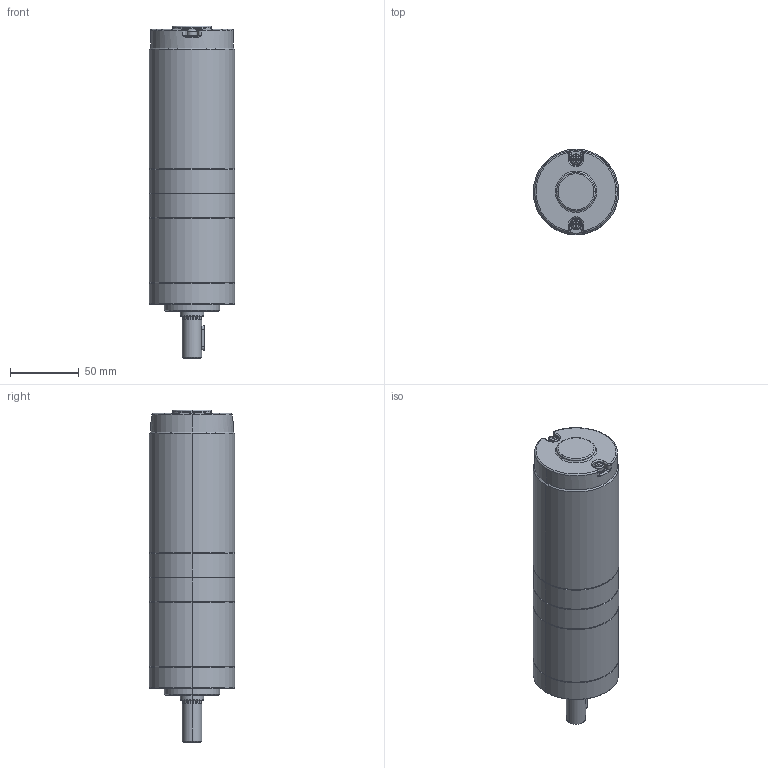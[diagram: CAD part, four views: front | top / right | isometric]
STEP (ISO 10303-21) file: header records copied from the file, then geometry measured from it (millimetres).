
FILE_DESCRIPTION (( 'STEP AP203' ), '1' );
FILE_NAME ('62ZPN有刷三级减速60W.STEP', '2021-07-17T08:18:38', ( '' ), ( '' ), 'SwSTEP 2.0', 'SolidWorks 2021', '' );
FILE_SCHEMA (( 'CONFIG_CONTROL_DESIGN' ));
Length unit declared in the file: millimetre
Products named in the file (1): 62ZPN有刷三级减速60W
Bounding box: 62 x 62 x 240.8 mm (x, y, z)
Volume: 609500.8 mm3; surface area: 49993.5 mm2
Topology: 1 solids, 1 shells, 277 faces, 645 edges, 385 vertices
Faces by surface type: plane 98, cylinder 97, cone 48, torus 27, bspline 7
Entity records: 8342 total; most frequent: CARTESIAN_POINT 1897, DIRECTION 1416, ORIENTED_EDGE 1266, EDGE_CURVE 633, AXIS2_PLACEMENT_3D 540, VERTEX_POINT 385, LINE 336, VECTOR 336
